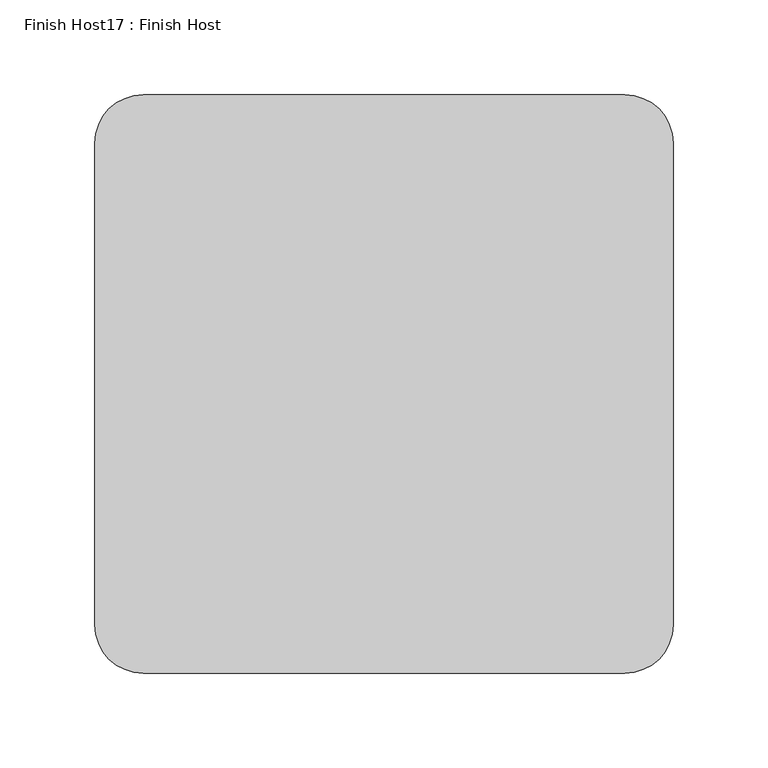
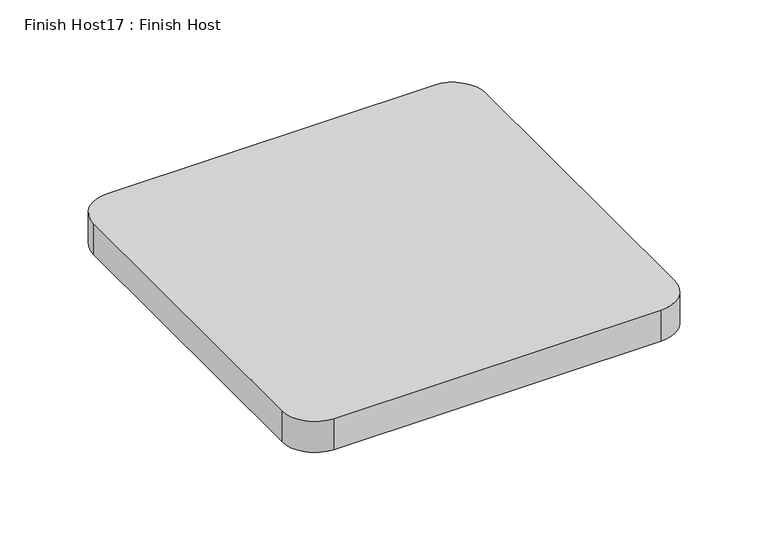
"""IFC4 building model written with IfcOpenShell, lengths in millimetres: proxy geometry, Finish Host17 : Finish Host."""

from ifc_helpers import new_model, si_unit, point, frame_2d, origin, origin_with_axes, place, context, project, spatial, polyline, circle_curve, trimmed, segment, composite_curve, outline, extrude, source, transform, mapped, element, save


def finish_host17_finish_host_9b003aed(model_context):
    return source(origin(), model_context, "Body", "SweptSolid", [
        extrude(outline(composite_curve([segment(polyline([(1799.7649374, 1413.7667263), (1799.7649374, 1667.7667263)]), True, "CONTINUOUS"), segment(trimmed(circle_curve(frame_2d((1825.1649374, 1667.7667263)), 25.4), [point((1799.7649374, 1667.7667263))], [point((1825.1649374, 1693.1667263))], False, "CARTESIAN"), True, "CONTINUOUS"), segment(polyline([(1825.1649374, 1693.1667263), (2079.1649374, 1693.1667263)]), True, "CONTINUOUS"), segment(trimmed(circle_curve(frame_2d((2079.1649374, 1667.7667263)), 25.4), [point((2079.1649374, 1693.1667263))], [point((2104.5649374, 1667.7667263))], False, "CARTESIAN"), True, "CONTINUOUS"), segment(polyline([(2104.5649374, 1667.7667263), (2104.5649374, 1413.7667263)]), True, "CONTINUOUS"), segment(trimmed(circle_curve(frame_2d((2079.1649374, 1413.7667263)), 25.4), [point((2104.5649374, 1413.7667263))], [point((2079.1649374, 1388.3667263))], False, "CARTESIAN"), True, "CONTINUOUS"), segment(polyline([(2079.1649374, 1388.3667263), (1825.1649374, 1388.3667263)]), True, "CONTINUOUS"), segment(trimmed(circle_curve(frame_2d((1825.1649374, 1413.7667263)), 25.4), [point((1825.1649374, 1388.3667263))], [point((1799.7649374, 1413.7667263))], False, "CARTESIAN"), True, "CONTINUOUS")], self_intersect=False)), origin_with_axes(), (0.0, 0.0, 1.0), 25.4),
    ])


if __name__ == "__main__":
    model = new_model("IFC4")
    model_context = context("Model", 3, world=origin())
    ifc_project = project(units=[si_unit("LENGTHUNIT", "METRE", prefix="MILLI")], contexts=[model_context])
    site = spatial("IfcSite", under=ifc_project)
    building = spatial("IfcBuilding", under=site)
    placement = place(None, origin())
    finish_host17_finish_host_shape = finish_host17_finish_host_9b003aed(model_context)
    element("IfcBuildingElementProxy", 1, Name="Finish Host17 : Finish Host", ObjectType="Finish Host17 : Finish Host", at=placement, inside=building, context=model_context, shape_type="MappedRepresentation", body=[
        mapped(finish_host17_finish_host_shape, transform((0.0, 0.0, 0.0), x_axis=(1.0, 0.0, 0.0), y_axis=(0.0, 1.0, 0.0), z_axis=(0.0, 0.0, 1.0))),
    ])
    save(model, "model.ifc")
